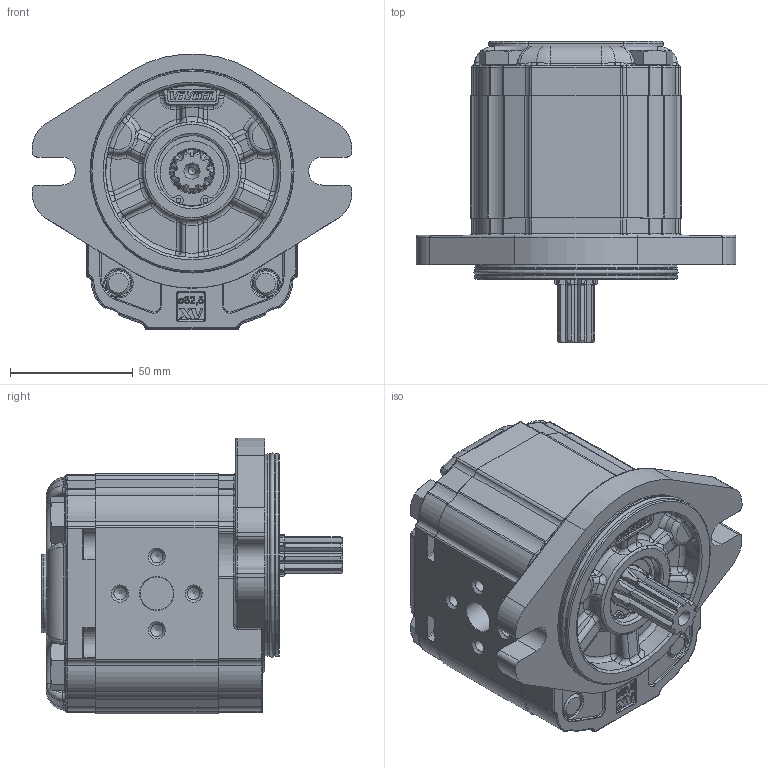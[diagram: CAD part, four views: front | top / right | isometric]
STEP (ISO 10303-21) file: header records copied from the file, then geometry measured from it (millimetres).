
FILE_DESCRIPTION(/* description */ ('Unknown'),/* implementation_level */ '2;1');
FILE_NAME(/* name */ 'X2M4331IOOE',/* time_stamp */ '2021-04-26T10:28:11+02:00',/* author */ ('Unknown'),/* organization */ ('Unknown'),/* preprocessor_version */ 'ST-DEVELOPER v16.7',/* originating_system */ 'Solid Edge',/* authorisation */ 'Unknown');
FILE_SCHEMA (('AUTOMOTIVE_DESIGN {1 0 10303 214 3 1 1}'));
Products named in the file (5): X2M4331IOOE; X2M31; 2I; X2OOH50; XM219-E
Assembly tree (4 placements, depth 2):
  X2M4331IOOE
    X2M31
    2I
    X2OOH50
    XM219-E
Bounding box: 130.38 x 122.7 x 112.3 mm (x, y, z)
Volume: 674994.2 mm3; surface area: 108535.7 mm2
Topology: 4 solids, 5 shells, 1576 faces, 3999 edges, 2497 vertices
Faces by surface type: plane 601, cylinder 442, bspline 210, torus 207, cone 90, sphere 26
Full cylindrical faces by diameter (mm): 2 x2, 4.917 x4, 5 x4, 11 x2, 11.445 x1, 11.5 x4, 13.5 x2, 16 x4, 17.42 x1, 18 x1, 20.595 x1, 23.332 x1, 25.834 x1, 28.5 x1, 28.56 x1, 28.57 x1, 28.8 x1, 30.4 x1, 79.6 x2, 82.5 x2
Entity records: 59622 total; most frequent: CARTESIAN_POINT 13001, ORIENTED_EDGE 7680, DIRECTION 7406, EDGE_CURVE 3840, AXIS2_PLACEMENT_3D 2748, VERTEX_POINT 2443, LINE 1910, VECTOR 1910
